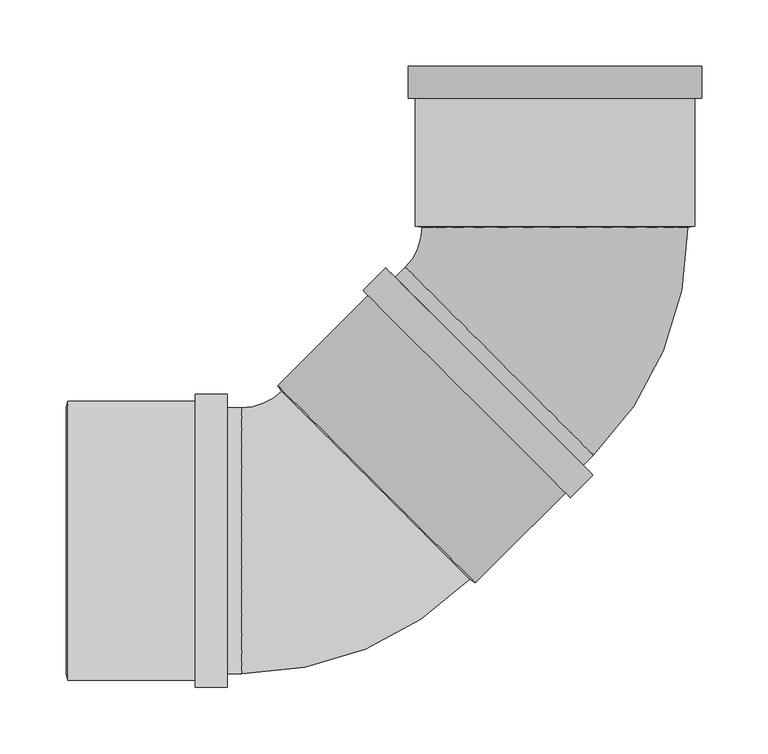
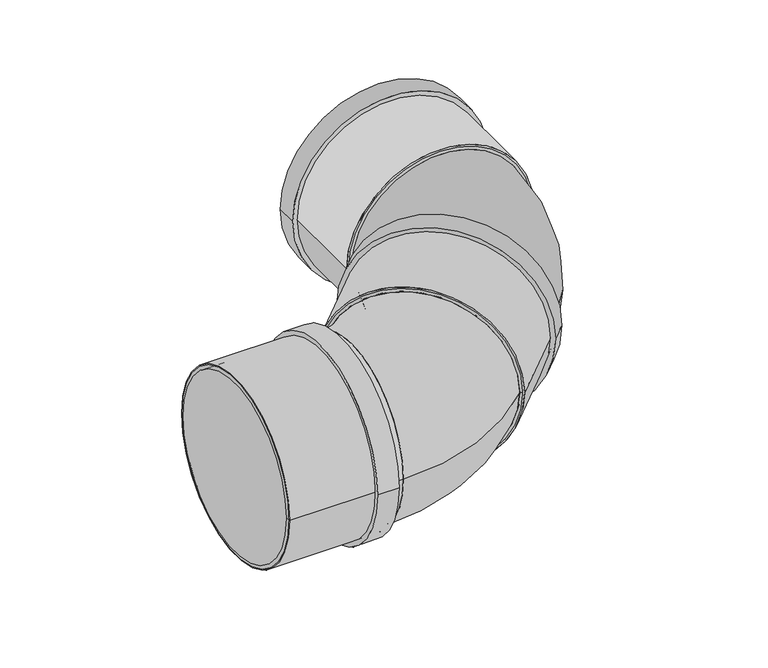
"""IFC4 building model written with IfcOpenShell, lengths in millimetres: pipe fitting geometry, Superdrain SK Bend_Composite 2x45 : Superdrain SK Bend_Composite 2x45."""

from ifc_helpers import new_model, si_unit, point, frame, origin, origin_2d, place, context, project, spatial, polyline, circle_curve, ellipse_curve, trimmed, segment, composite_curve, outline, extrude, source, transform, mapped, element, save
from ifc_brep_helpers import plane_surface, revolved_surface, advanced_brep


def pipe_fitting_b59ebb63(model_context):
    return source(origin(), model_context, "Body", "SolidModel", [
        advanced_brep(
        [(100.0, 235.6352739, 0.0), (-100.0, 235.6352739, 0.0), (28.991378, 64.2052957, 0.0), (-112.4299782, 205.626652, 0.0)],
        [
            (0, 1, circle_curve(frame((0.0, 235.6352739, 0.0), z_axis=(0.0, 1.0, 0.0), x_axis=(-1.0, 0.0, 0.0)), 100.0)),
            (1, 0, circle_curve(frame((0.0, 235.6352739, 0.0), z_axis=(0.0, 1.0, 0.0), x_axis=(-1.0, 0.0, 0.0)), 100.0)),
            (2, 3, circle_curve(frame((-41.7193001, 134.9159739, 0.0), z_axis=(-0.7071067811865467, -0.7071067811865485, 0.0), x_axis=(-0.7071067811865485, 0.7071067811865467, 0.0)), 100.0)),
            (3, 2, circle_curve(frame((-41.7193001, 134.9159739, 0.0), z_axis=(-0.7071067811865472, -0.7071067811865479, 0.0), x_axis=(-0.7071067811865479, 0.7071067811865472, 0.0)), 100.0)),
            (3, 1, circle_curve(frame((-142.4386002, 235.6352739, 0.0), z_axis=(0.0, 0.0, 1.0), x_axis=(0.707106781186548, 0.7071067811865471, 0.0)), 42.4386002)),
            (0, 2, circle_curve(frame((-142.4386002, 235.6352739, 0.0), z_axis=(0.0, 0.0, -1.0), x_axis=(0.707106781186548, 0.7071067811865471, 0.0)), 242.4386002)),
        ],
        [
            plane_surface(frame((0.0, 235.6352739, 0.0), z_axis=(0.0, 1.0, 0.0), x_axis=(0.0, 0.0, -1.0))),
            plane_surface(frame((-41.7193001, 134.9159739, 0.0), z_axis=(-0.7071067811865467, -0.7071067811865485, 0.0), x_axis=(0.0, 0.0, -1.0))),
            revolved_surface(trimmed(ellipse_curve(frame((-41.7193001, 336.354574, 0.0), z_axis=(0.7071067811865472, -0.7071067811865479, 0.0), x_axis=(-0.7071067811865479, -0.7071067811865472, 0.0)), 100.0, 100.0), [point((-112.4299782, 265.6438959, 0.0))], [point((28.991378, 407.0652521, 0.0))], True, "CARTESIAN"), (-142.4386002, 235.6352739, 0.0), (0.0, 0.0, 1.0)),
            revolved_surface(trimmed(ellipse_curve(frame((-41.7193001, 336.354574, 0.0), z_axis=(0.7071067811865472, -0.7071067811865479, 0.0), x_axis=(-0.7071067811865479, -0.7071067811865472, 0.0)), 100.0, 100.0), [point((28.991378, 407.0652521, 0.0))], [point((-112.4299782, 265.6438959, 0.0))], True, "CARTESIAN"), (-142.4386002, 235.6352739, 0.0), (0.0, 0.0, 1.0)),
        ],
        [
            (0, [[1, 2]]),
            (1, [[3, 4]]),
            (2, [[-4, 5, -1, 6]]),
            (3, [[-3, -6, -2, -5]]),
        ],
    ),
        extrude(outline(composite_curve([segment(trimmed(circle_curve(origin_2d(), 105.0), [point((0.0, 105.0))], [point((0.0, -105.0))], False, "CARTESIAN"), True, "CONTINUOUS"), segment(trimmed(circle_curve(origin_2d(), 105.0), [point((0.0, -105.0))], [point((0.0, 105.0))], False, "CARTESIAN"), True, "CONTINUOUS")], self_intersect=False), holes=[composite_curve([segment(trimmed(circle_curve(origin_2d(), 100.0), [point((0.0, 100.0))], [point((0.0, -100.0))], True, "CARTESIAN"), True, "CONTINUOUS"), segment(trimmed(circle_curve(origin_2d(), 100.0), [point((0.0, -100.0))], [point((0.0, 100.0))], True, "CARTESIAN"), True, "CONTINUOUS")], self_intersect=False)]), frame((0.0, 236.6352739, 0.0), z_axis=(0.0, 1.0, 0.0), x_axis=(0.0, 0.0, 1.0)), (0.0, 0.0, 1.0), 120.0),
        extrude(outline(composite_curve([segment(trimmed(circle_curve(origin_2d(), 110.25), [point((0.0, -110.25))], [point((0.0, 110.25))], False, "CARTESIAN"), True, "CONTINUOUS"), segment(trimmed(circle_curve(origin_2d(), 110.25), [point((0.0, 110.25))], [point((0.0, -110.25))], False, "CARTESIAN"), True, "CONTINUOUS")], self_intersect=False), holes=[composite_curve([segment(trimmed(circle_curve(origin_2d(), 100.0), [point((0.0, -100.0))], [point((0.0, 100.0))], True, "CARTESIAN"), True, "CONTINUOUS"), segment(trimmed(circle_curve(origin_2d(), 100.0), [point((0.0, 100.0))], [point((0.0, -100.0))], True, "CARTESIAN"), True, "CONTINUOUS")], self_intersect=False)]), frame((0.0, 332.6352739, 0.0), z_axis=(0.0, 1.0, 0.0), x_axis=(0.0, 0.0, 1.0)), (0.0, 0.0, 1.0), 24.0),
        advanced_brep(
        [(105.0, 236.6352739, 0.0), (-105.0, 236.6352739, 0.0), (100.0, 235.6352739, 0.0), (-100.0, 235.6352739, 0.0)],
        [
            (0, 1, circle_curve(frame((0.0, 236.6352739, 0.0), z_axis=(0.0, 1.0, 0.0), x_axis=(1.0, 0.0, 0.0)), 105.0)),
            (1, 0, circle_curve(frame((0.0, 236.6352739, 0.0), z_axis=(0.0, 1.0, 0.0), x_axis=(-1.0, 0.0, 0.0)), 105.0)),
            (2, 3, circle_curve(frame((0.0, 235.6352739, 0.0), z_axis=(0.0, -1.0, 0.0), x_axis=(-1.0, 0.0, 0.0)), 100.0)),
            (3, 2, circle_curve(frame((0.0, 235.6352739, 0.0), z_axis=(0.0, -1.0, 0.0), x_axis=(1.0, 0.0, 0.0)), 100.0)),
            (3, 1),
            (0, 2),
        ],
        [
            plane_surface(frame((0.0, 236.6352739, 0.0), z_axis=(0.0, 1.0, 0.0), x_axis=(0.0, 0.0, -1.0))),
            plane_surface(frame((0.0, 235.6352739, 0.0), z_axis=(0.0, -1.0, 0.0), x_axis=(0.0, 0.0, -1.0))),
            revolved_surface(polyline([(-100.0, 235.6352739, 0.0), (-105.0, 236.6352739, 0.0)]), (0.0, 215.6352739, 0.0), (0.0, 1.0, 0.0)),
            revolved_surface(polyline([(100.0, 235.6352739, 0.0), (105.0, 236.6352739, 0.0)]), (0.0, 215.6352739, 0.0), (0.0, 1.0, 0.0)),
        ],
        [
            (0, [[1, 2]]),
            (1, [[3, 4]]),
            (2, [[-4, 5, -1, 6]]),
            (3, [[-3, -6, -2, -5]]),
        ],
    ),
        extrude(outline(composite_curve([segment(trimmed(circle_curve(origin_2d(), 100.0), [point((0.0, -100.0))], [point((0.0, 100.0))], False, "CARTESIAN"), True, "CONTINUOUS"), segment(trimmed(circle_curve(origin_2d(), 100.0), [point((0.0, 100.0))], [point((0.0, -100.0))], False, "CARTESIAN"), True, "CONTINUOUS")], self_intersect=False)), frame((-134.2088671, 42.4264069, 0.0), z_axis=(0.707106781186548, 0.7071067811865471, 0.0), x_axis=(0.0, 0.0, -1.0)), (0.0, 0.0, 1.0), 130.8),
        extrude(outline(composite_curve([segment(trimmed(circle_curve(origin_2d(), 105.0), [point((105.0, 0.0))], [point((-105.0, 0.0))], False, "CARTESIAN"), True, "CONTINUOUS"), segment(trimmed(circle_curve(origin_2d(), 105.0), [point((-105.0, 0.0))], [point((105.0, 0.0))], False, "CARTESIAN"), True, "CONTINUOUS")], self_intersect=False), holes=[composite_curve([segment(trimmed(circle_curve(origin_2d(), 100.0), [point((100.0, 0.0))], [point((-100.0, 0.0))], True, "CARTESIAN"), True, "CONTINUOUS"), segment(trimmed(circle_curve(origin_2d(), 100.0), [point((-100.0, 0.0))], [point((100.0, 0.0))], True, "CARTESIAN"), True, "CONTINUOUS")], self_intersect=False)]), frame((-366.4352739, 0.0, 0.0), z_axis=(1.0, 0.0, 0.0), x_axis=(0.0, 1.0, 0.0)), (0.0, 0.0, 1.0), 120.0),
        extrude(outline(composite_curve([segment(trimmed(circle_curve(origin_2d(), 110.25), [point((110.25, 0.0))], [point((-110.25, 0.0))], False, "CARTESIAN"), True, "CONTINUOUS"), segment(trimmed(circle_curve(origin_2d(), 110.25), [point((-110.25, 0.0))], [point((110.25, 0.0))], False, "CARTESIAN"), True, "CONTINUOUS")], self_intersect=False), holes=[composite_curve([segment(trimmed(circle_curve(origin_2d(), 100.0), [point((100.0, 0.0))], [point((-100.0, 0.0))], True, "CARTESIAN"), True, "CONTINUOUS"), segment(trimmed(circle_curve(origin_2d(), 100.0), [point((-100.0, 0.0))], [point((100.0, 0.0))], True, "CARTESIAN"), True, "CONTINUOUS")], self_intersect=False)]), frame((-270.4352739, 0.0, 0.0), z_axis=(1.0, 0.0, 0.0), x_axis=(0.0, 1.0, 0.0)), (0.0, 0.0, 1.0), 24.0),
        advanced_brep(
        [(-367.4352739, 100.0, 0.0), (-367.4352739, -100.0, 0.0), (-366.4352739, 105.0, 0.0), (-366.4352739, -105.0, 0.0)],
        [
            (0, 1, circle_curve(frame((-367.4352739, 0.0, 0.0), z_axis=(-1.0, 0.0, 0.0), x_axis=(0.0, 1.0, 0.0)), 100.0)),
            (1, 0, circle_curve(frame((-367.4352739, 0.0, 0.0), z_axis=(-1.0, 0.0, 0.0), x_axis=(0.0, -1.0, 0.0)), 100.0)),
            (2, 3, circle_curve(frame((-366.4352739, 0.0, 0.0), z_axis=(1.0, 0.0, 0.0), x_axis=(0.0, -1.0, 0.0)), 105.0)),
            (3, 2, circle_curve(frame((-366.4352739, 0.0, 0.0), z_axis=(1.0, 0.0, 0.0), x_axis=(0.0, 1.0, 0.0)), 105.0)),
            (3, 1),
            (0, 2),
        ],
        [
            plane_surface(frame((-367.4352739, 0.0, 0.0), z_axis=(-1.0, 0.0, 0.0), x_axis=(0.0, 0.0, -1.0))),
            plane_surface(frame((-366.4352739, 0.0, 0.0), z_axis=(1.0, 0.0, 0.0), x_axis=(0.0, 0.0, -1.0))),
            revolved_surface(polyline([(-367.4352739, 100.0, 0.0), (-366.4352739, 105.0, 0.0)]), (-387.4352739, 0.0, 0.0), (1.0, 0.0, 0.0)),
            revolved_surface(polyline([(-367.4352739, -100.0, 0.0), (-366.4352739, -105.0, 0.0)]), (-387.4352739, 0.0, 0.0), (1.0, 0.0, 0.0)),
        ],
        [
            (0, [[1, 2]]),
            (1, [[3, 4]]),
            (2, [[-4, 5, -1, 6]]),
            (3, [[-3, -6, -2, -5]]),
        ],
    ),
        advanced_brep(
        [(-64.2052957, -28.991378, 0.0), (-205.626652, 112.4299782, 0.0), (-235.6352739, -100.0, 0.0), (-235.6352739, 100.0, 0.0)],
        [
            (0, 1, circle_curve(frame((-134.9159739, 41.7193001, 0.0), z_axis=(0.7071067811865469, 0.7071067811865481, 0.0), x_axis=(-0.7071067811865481, 0.7071067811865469, 0.0)), 100.0)),
            (1, 0, circle_curve(frame((-134.9159739, 41.7193001, 0.0), z_axis=(0.7071067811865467, 0.7071067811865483, 0.0), x_axis=(-0.7071067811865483, 0.7071067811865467, 0.0)), 100.0)),
            (2, 3, circle_curve(frame((-235.6352739, 0.0, 0.0), z_axis=(-1.0, 0.0, 0.0), x_axis=(0.0, 1.0, 0.0)), 100.0)),
            (3, 2, circle_curve(frame((-235.6352739, 0.0, 0.0), z_axis=(-1.0, 0.0, 0.0), x_axis=(0.0, 1.0, 0.0)), 100.0)),
            (3, 1, circle_curve(frame((-235.6352739, 142.4386002, 0.0), z_axis=(0.0, 0.0, 1.0), x_axis=(1.0, 0.0, 0.0)), 42.4386002)),
            (0, 2, circle_curve(frame((-235.6352739, 142.4386002, 0.0), z_axis=(0.0, 0.0, -1.0), x_axis=(1.0, 0.0, 0.0)), 242.4386002)),
        ],
        [
            plane_surface(frame((-134.9159739, 41.7193001, 0.0), z_axis=(0.707106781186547, 0.707106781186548, 0.0), x_axis=(0.0, 0.0, -1.0))),
            plane_surface(frame((-235.6352739, 0.0, 0.0), z_axis=(-1.0, 0.0, 0.0), x_axis=(0.0, 0.0, -1.0))),
            revolved_surface(trimmed(ellipse_curve(frame((-93.1966738, 142.4386002, 0.0), z_axis=(0.0, -1.0, 0.0), x_axis=(-1.0, 0.0, 0.0)), 100.0, 100.0), [point((-193.1966738, 142.4386002, 0.0))], [point((6.8033262, 142.4386002, 0.0))], True, "CARTESIAN"), (-235.6352739, 142.4386002, 0.0), (0.0, 0.0, 1.0)),
            revolved_surface(trimmed(ellipse_curve(frame((-93.1966738, 142.4386002, 0.0), z_axis=(0.0, -1.0, 0.0), x_axis=(-1.0, 0.0, 0.0)), 100.0, 100.0), [point((6.8033262, 142.4386002, 0.0))], [point((-193.1966738, 142.4386002, 0.0))], True, "CARTESIAN"), (-235.6352739, 142.4386002, 0.0), (0.0, 0.0, 1.0)),
        ],
        [
            (0, [[1, 2]]),
            (1, [[3, 4]]),
            (2, [[-4, 5, -1, 6]]),
            (3, [[-3, -6, -2, -5]]),
        ],
    ),
        extrude(outline(composite_curve([segment(trimmed(circle_curve(origin_2d(), 105.0), [point((0.0, 105.0000001))], [point((0.0, -105.0))], False, "CARTESIAN"), True, "CONTINUOUS"), segment(trimmed(circle_curve(origin_2d(), 105.0), [point((0.0, -105.0))], [point((0.0, 105.0000001))], False, "CARTESIAN"), True, "CONTINUOUS")], self_intersect=False), holes=[composite_curve([segment(trimmed(circle_curve(origin_2d(), 100.0), [point((0.0, 100.0))], [point((0.0, -100.0))], True, "CARTESIAN"), True, "CONTINUOUS"), segment(trimmed(circle_curve(origin_2d(), 100.0), [point((0.0, -100.0))], [point((0.0, 100.0))], True, "CARTESIAN"), True, "CONTINUOUS")], self_intersect=False)]), frame((-134.2088671, 42.4264069, 0.0), z_axis=(0.707106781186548, 0.707106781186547, 0.0), x_axis=(0.0, 0.0, 1.0)), (0.0, 0.0, 1.0), 120.0),
        extrude(outline(composite_curve([segment(trimmed(circle_curve(origin_2d(), 110.25), [point((0.0, -110.25))], [point((0.0, 110.2500001))], False, "CARTESIAN"), True, "CONTINUOUS"), segment(trimmed(circle_curve(origin_2d(), 110.25), [point((0.0, 110.2500001))], [point((0.0, -110.25))], False, "CARTESIAN"), True, "CONTINUOUS")], self_intersect=False), holes=[composite_curve([segment(trimmed(circle_curve(origin_2d(), 100.0), [point((0.0, -100.0))], [point((0.0, 100.0))], True, "CARTESIAN"), True, "CONTINUOUS"), segment(trimmed(circle_curve(origin_2d(), 100.0), [point((0.0, 100.0))], [point((0.0, -100.0))], True, "CARTESIAN"), True, "CONTINUOUS")], self_intersect=False)]), frame((-66.3266161, 110.3086579, 0.0), z_axis=(0.7071067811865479, 0.7071067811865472, 0.0), x_axis=(0.0, 0.0, 1.0)), (0.0, 0.0, 1.0), 24.0),
        advanced_brep(
        [(-59.962655, -31.8198052, 0.0), (-208.4550791, 116.6726189, 0.0), (-64.2052957, -28.991378, 0.0), (-205.626652, 112.4299782, 0.0)],
        [
            (0, 1, circle_curve(frame((-134.2088671, 42.4264069, 0.0), z_axis=(0.7071067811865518, 0.7071067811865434, 0.0), x_axis=(0.7071067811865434, -0.7071067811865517, 0.0)), 105.0)),
            (1, 0, circle_curve(frame((-134.2088671, 42.4264069, 0.0), z_axis=(0.7071067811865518, 0.7071067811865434, 0.0), x_axis=(-0.7071067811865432, 0.7071067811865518, 0.0)), 105.0)),
            (2, 3, circle_curve(frame((-134.9159739, 41.7193001, 0.0), z_axis=(-0.7071067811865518, -0.7071067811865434, 0.0), x_axis=(-0.7071067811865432, 0.7071067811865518, 0.0)), 100.0)),
            (3, 2, circle_curve(frame((-134.9159739, 41.7193001, 0.0), z_axis=(-0.7071067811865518, -0.7071067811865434, 0.0), x_axis=(0.7071067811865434, -0.7071067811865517, 0.0)), 100.0)),
            (3, 1),
            (0, 2),
        ],
        [
            plane_surface(frame((-134.2088671, 42.4264069, 0.0), z_axis=(0.7071067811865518, 0.7071067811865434, 0.0), x_axis=(0.0, 0.0, -1.0))),
            plane_surface(frame((-134.9159739, 41.7193001, 0.0), z_axis=(-0.7071067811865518, -0.7071067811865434, 0.0), x_axis=(0.0, 0.0, -1.0))),
            revolved_surface(polyline([(-205.62665189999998, 112.42997809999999, 0.0), (-208.45507910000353, 116.6726189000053, 0.0)]), (-149.0581095, 27.5771645, 0.0), (0.7071067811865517, 0.7071067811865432, 0.0)),
            revolved_surface(polyline([(-64.20529580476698, -28.99137799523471, 0.0), (-59.962655, -31.8198052, 0.0)]), (-149.0581095, 27.5771645, 0.0), (0.7071067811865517, 0.7071067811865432, 0.0)),
        ],
        [
            (0, [[1, 2]]),
            (1, [[3, 4]]),
            (2, [[-4, 5, -1, 6]]),
            (3, [[-3, -6, -2, -5]]),
        ],
    ),
        extrude(outline(composite_curve([segment(trimmed(circle_curve(origin_2d(), 100.0), [point((-100.0, 0.0))], [point((100.0, 0.0))], False, "CARTESIAN"), True, "CONTINUOUS"), segment(trimmed(circle_curve(origin_2d(), 100.0), [point((100.0, 0.0))], [point((-100.0, 0.0))], False, "CARTESIAN"), True, "CONTINUOUS")], self_intersect=False)), frame((-366.4352739, 0.0, 0.0), z_axis=(1.0, 0.0, 0.0), x_axis=(0.0, 1.0, 0.0)), (0.0, 0.0, 1.0), 130.8),
    ])


if __name__ == "__main__":
    model = new_model("IFC4")
    model_context = context("Model", 3, world=origin())
    ifc_project = project(units=[si_unit("LENGTHUNIT", "METRE", prefix="MILLI")], contexts=[model_context])
    site = spatial("IfcSite", under=ifc_project)
    building = spatial("IfcBuilding", under=site)
    placement = place(None, origin())
    pipe_fitting_shape = pipe_fitting_b59ebb63(model_context)
    element("IfcPipeFitting", 1, ObjectType="Superdrain SK Bend_Composite 2x45 : Superdrain SK Bend_Composite 2x45", at=placement, inside=building, context=model_context, shape_type="MappedRepresentation", body=[
        mapped(pipe_fitting_shape, transform((0.0, 0.0, 0.0), x_axis=(1.0, 0.0, 0.0), y_axis=(0.0, 1.0, 0.0), z_axis=(0.0, 0.0, 1.0))),
    ])
    save(model, "model.ifc")
